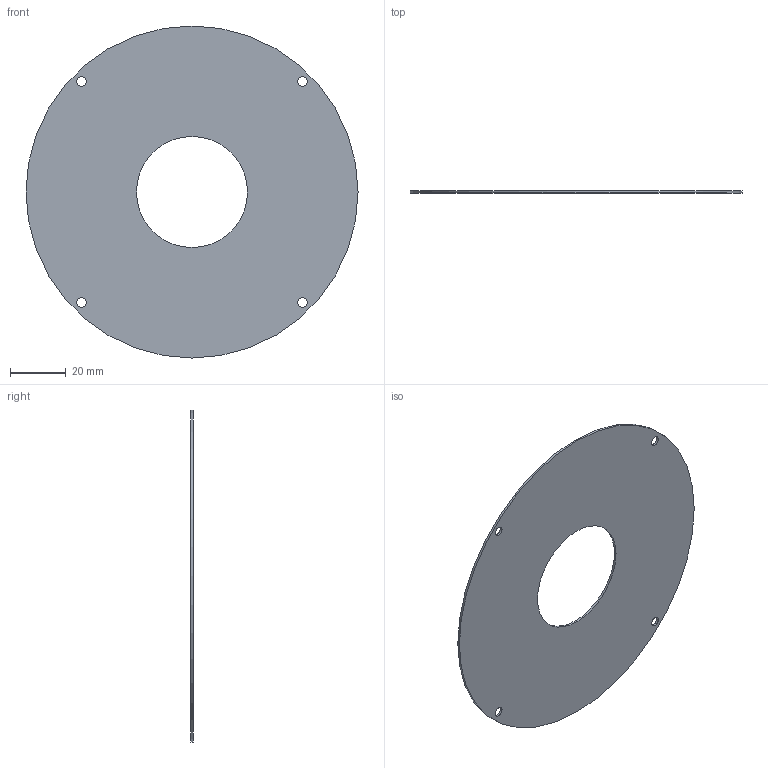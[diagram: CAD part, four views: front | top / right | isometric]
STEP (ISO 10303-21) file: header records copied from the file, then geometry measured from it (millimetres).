
FILE_DESCRIPTION(/* description */ ('0.8 mm translucent sheet insert. Drops in from front through the 119.8 mm recess and is retained by the same four M3 x12 front fasteners as the cassette; no trapped rim. 0.2 mm radial clearance around camera island. Optical uniformity needs a lighting prototype.'),/* implementation_level */ '2;1');
FILE_NAME(/* name */ '21 Removable annular diffuser.step',/* time_stamp */ '2026-10-02T18:55:11+01:00',/* author */ (''),/* organization */ (''),/* preprocessor_version */ 'ST-DEVELOPER v20.2',/* originating_system */ 'Autodesk Translation Framework v15.15.0.0',/* authorisation */ '');
FILE_SCHEMA (('AUTOMOTIVE_DESIGN { 1 0 10303 214 3 1 1 }'));
Length unit declared in the file: millimetre
Products named in the file (1): 2026-10-02-18-55-11-303
Bounding box: 119 x 0.8 x 119 mm (x, y, z)
Volume: 7873.3 mm3; surface area: 20116.5 mm2
Topology: 1 solids, 1 shells, 8 faces, 18 edges, 12 vertices
Faces by surface type: cylinder 6, plane 2
Full cylindrical faces by diameter (mm): 3.4 x4, 39.8 x1, 119 x1
Entity records: 294 total; most frequent: DIRECTION 48, CARTESIAN_POINT 39, ORIENTED_EDGE 36, AXIS2_PLACEMENT_3D 21, EDGE_LOOP 18, EDGE_CURVE 18, CIRCLE 12, VERTEX_POINT 12
